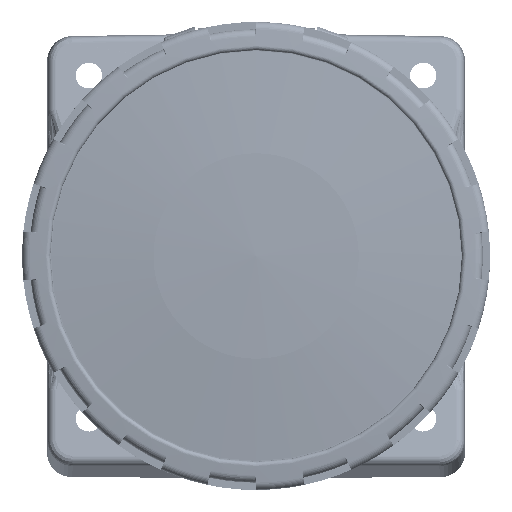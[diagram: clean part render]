
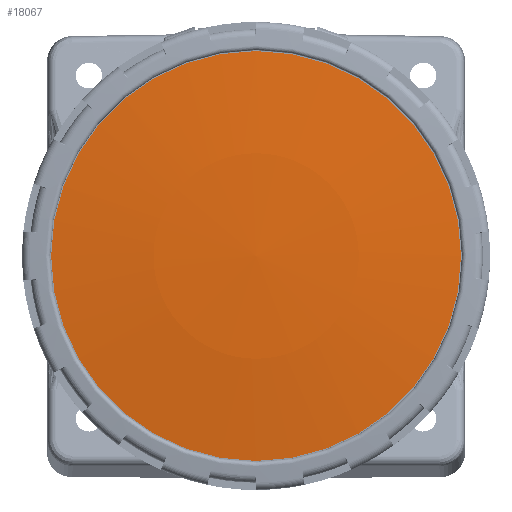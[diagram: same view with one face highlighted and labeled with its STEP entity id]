
A CAD part, left-side view. The second image highlights one B-rep face of the part: STEP entity #18067.
In plain terms, the highlighted spherical face has radius 458 mm.
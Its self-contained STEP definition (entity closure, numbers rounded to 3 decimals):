
#2616=SPHERICAL_SURFACE('',#107286,458.);
#18067=ADVANCED_FACE('',(#25028),#2616,.T.);
#25028=FACE_OUTER_BOUND('',#31070,.T.);
#31070=EDGE_LOOP('',(#61585));
#34555=CIRCLE('',#107269,49.05);
#61585=ORIENTED_EDGE('',*,*,#86638,.T.);
#72476=VERTEX_POINT('',#264748);
#86638=EDGE_CURVE('',#72476,#72476,#34555,.T.);
#107269=AXIS2_PLACEMENT_3D('',#264747,#128398,#128399);
#107286=AXIS2_PLACEMENT_3D('',#265233,#128434,#128435);
#128398=DIRECTION('',(-1.,0.,0.));
#128399=DIRECTION('',(0.,0.,1.));
#128434=DIRECTION('',(-1.,0.,0.));
#128435=DIRECTION('',(0.,0.,1.));
#264747=CARTESIAN_POINT('',(-87.166,0.212,0.454));
#264748=CARTESIAN_POINT('',(-87.166,0.212,49.504));
#265233=CARTESIAN_POINT('',(368.2,0.212,0.454));
